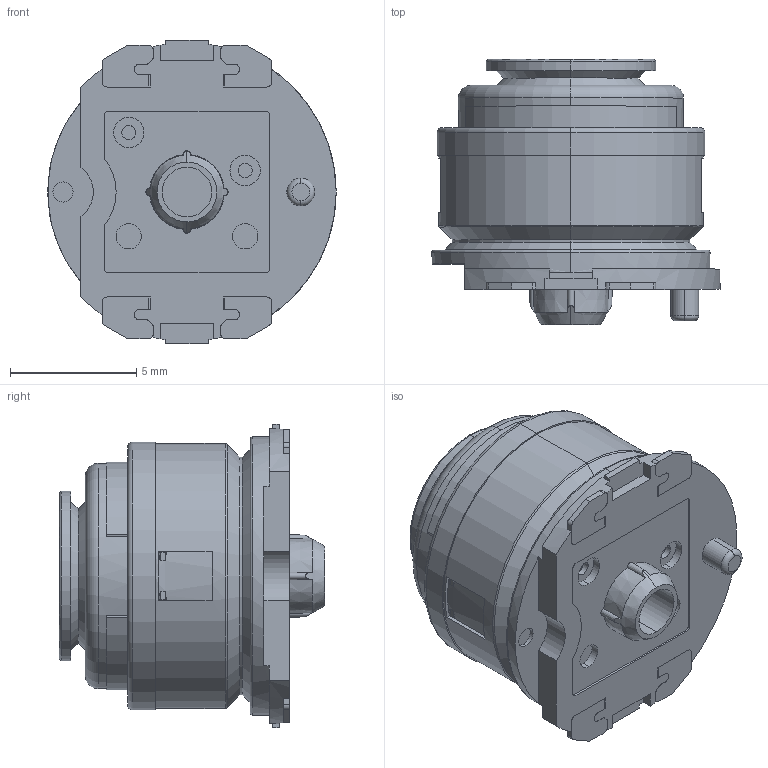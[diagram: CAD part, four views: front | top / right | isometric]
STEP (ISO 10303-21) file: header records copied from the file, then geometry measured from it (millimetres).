
FILE_DESCRIPTION(('Creo Elements/Direct Modeling STEP Export'),'2;1');
FILE_NAME('229AP.stp','2013-04-07T23:17:43',(''),(''),'Creo Elements/Direct Modeling STEP processor for AP214 (Solid Model)','Creo Elements/Direct Modeling 18.1C 24-Feb-2013 (C) Parametric Technology GmbH','');
FILE_SCHEMA(('AUTOMOTIVE_DESIGN { 1 0 10303 214 1 1 1 1 }'));
Length unit declared in the file: millimetre
Products named in the file (1): 13M229-01-101_HOUSING_CUT.PRT
Bounding box: 11.4 x 10.49 x 12 mm (x, y, z)
Volume: 690.7 mm3; surface area: 577.8 mm2
Topology: 1 solids, 14 shells, 286 faces, 686 edges, 450 vertices
Faces by surface type: plane 158, cylinder 96, cone 18, torus 14
Entity records: 8188 total; most frequent: CARTESIAN_POINT 1578, ORIENTED_EDGE 1372, DIRECTION 1337, EDGE_CURVE 686, AXIS2_PLACEMENT_3D 477, VERTEX_POINT 450, VECTOR 383, LINE 383
